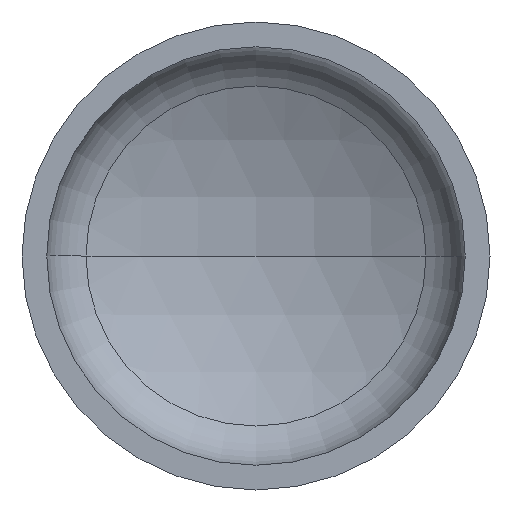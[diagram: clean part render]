
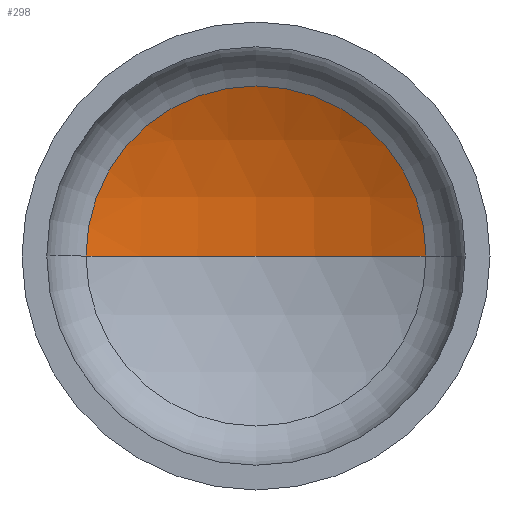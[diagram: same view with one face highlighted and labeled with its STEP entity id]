
A CAD part, front view. The second image highlights one B-rep face of the part: STEP entity #298.
In plain terms, the highlighted spherical face has radius 1120 mm.
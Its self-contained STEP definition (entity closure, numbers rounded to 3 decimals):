
#1 = DIRECTION ( 'NONE',  ( -1., 0., 0. ) ) ;
#6 = DIRECTION ( 'NONE',  ( 1., 0., 0. ) ) ;
#11 = VERTEX_POINT ( 'NONE', #297 ) ;
#13 = DIRECTION ( 'NONE',  ( 0., 0., 1. ) ) ;
#30 = AXIS2_PLACEMENT_3D ( 'NONE', #223, #226, #1 ) ;
#31 = CARTESIAN_POINT ( 'NONE',  ( 0., -686.29, 0. ) ) ;
#70 = ORIENTED_EDGE ( 'NONE', *, *, #170, .T. ) ;
#71 = VERTEX_POINT ( 'NONE', #200 ) ;
#73 = AXIS2_PLACEMENT_3D ( 'NONE', #31, #13, #6 ) ;
#83 = AXIS2_PLACEMENT_3D ( 'NONE', #295, #318, #327 ) ;
#86 = AXIS2_PLACEMENT_3D ( 'NONE', #315, #316, #317 ) ;
#106 = ORIENTED_EDGE ( 'NONE', *, *, #172, .T. ) ;
#115 = VERTEX_POINT ( 'NONE', #147 ) ;
#121 = ORIENTED_EDGE ( 'NONE', *, *, #179, .F. ) ;
#137 = EDGE_LOOP ( 'NONE', ( #121, #106, #70 ) ) ;
#147 = CARTESIAN_POINT ( 'NONE',  ( 508.641, 311.55, 0. ) ) ;
#170 = EDGE_CURVE ( 'NONE', #115, #11, #324, .T. ) ;
#172 = EDGE_CURVE ( 'NONE', #71, #115, #272, .T. ) ;
#179 = EDGE_CURVE ( 'NONE', #71, #11, #262, .T. ) ;
#200 = CARTESIAN_POINT ( 'NONE',  ( 0., 433.71, 0. ) ) ;
#223 = CARTESIAN_POINT ( 'NONE',  ( 0., -686.29, 0. ) ) ;
#226 = DIRECTION ( 'NONE',  ( 0., 0., -1. ) ) ;
#262 = CIRCLE ( 'NONE', #73, 1120. ) ;
#272 = CIRCLE ( 'NONE', #83, 1120. ) ;
#295 = CARTESIAN_POINT ( 'NONE',  ( 0., -686.29, 0. ) ) ;
#297 = CARTESIAN_POINT ( 'NONE',  ( -508.641, 311.55, 0. ) ) ;
#298 = ADVANCED_FACE ( 'NONE', ( #403 ), #303, .F. ) ;
#303 = SPHERICAL_SURFACE ( 'NONE', #30, 1120. ) ;
#315 = CARTESIAN_POINT ( 'NONE',  ( 0., 311.55, 0. ) ) ;
#316 = DIRECTION ( 'NONE',  ( 0., -1., 0. ) ) ;
#317 = DIRECTION ( 'NONE',  ( 1., 0., 0. ) ) ;
#318 = DIRECTION ( 'NONE',  ( 0., 0., -1. ) ) ;
#324 = CIRCLE ( 'NONE', #86, 508.641 ) ;
#327 = DIRECTION ( 'NONE',  ( -1., 0., 0. ) ) ;
#403 = FACE_OUTER_BOUND ( 'NONE', #137, .T. ) ;
